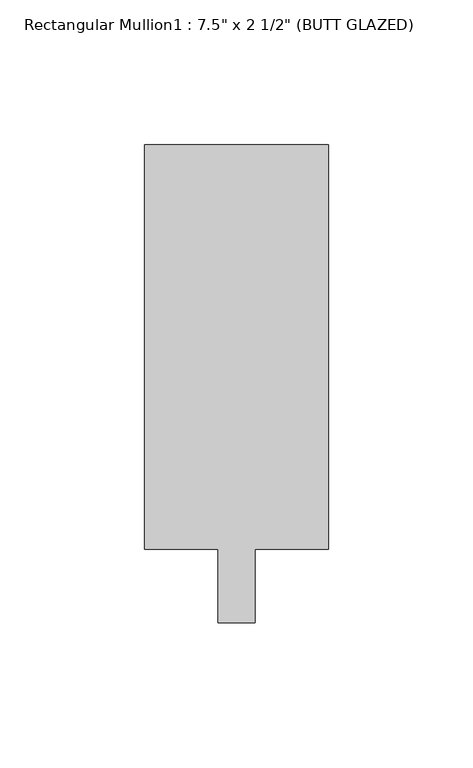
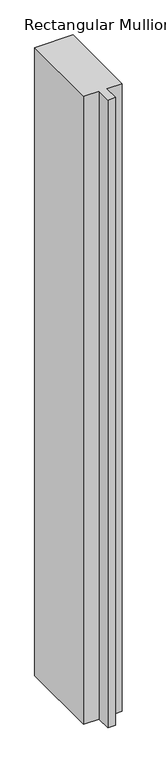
"""IFC4 building model written with IfcOpenShell, lengths in millimetres: member geometry."""

import ifcopenshell
import ifcopenshell.guid

model = None  # the IFC model being written
_history = None  # IfcOwnerHistory: only IFC2X3 demands one
_inside = {}  # id of a spatial element -> (the spatial element, [elements in it])
_under = {}  # id of a project, library or spatial element -> (it, [spatial elements below it])
_declared = {}  # id of a project -> (the project, [libraries it declares])
_typed = {}  # id of a type object -> (the type object, [elements of that type])
_made_of = {}  # id of a material, layer set ... -> (it, [elements and type objects made of it])


def new_model(schema):
    """Start an empty IFC model of exactly this schema.

    Asked for "IFC4X3", IfcOpenShell would pick the latest addendum, in which some entities
    have other attributes; the version numbers below select the first issue.
    IFC2X3 requires an IfcOwnerHistory on every rooted entity: one is made here for all.
    """
    global model, _history
    if schema == "IFC4X3":
        model = ifcopenshell.file(schema_version=(4, 3, 0, 0))
    else:
        model = ifcopenshell.file(schema=schema)
    _inside.clear()
    _under.clear()
    _declared.clear()
    _typed.clear()
    _made_of.clear()
    _history = None
    if model.schema == "IFC2X3":
        org = make("IfcOrganization", Name="unknown")
        user = make(
            "IfcPersonAndOrganization",
            ThePerson=make("IfcPerson", FamilyName="unknown"),
            TheOrganization=org,
        )
        app = make(
            "IfcApplication",
            ApplicationDeveloper=org,
            Version="unknown",
            ApplicationFullName="unknown",
            ApplicationIdentifier="unknown",
        )
        _history = make(
            "IfcOwnerHistory",
            OwningUser=user,
            OwningApplication=app,
            ChangeAction="ADDED",
            CreationDate=0,
        )
    return model


def make(cls, **values):
    """One entity of the class cls with the attributes given. An attribute that is None is left unset."""
    return model.create_entity(
        cls, **{name: value for name, value in values.items() if value is not None}
    )


def rooted(cls, **values):
    """An entity with a GlobalId (a new one), such as an element, a storey or a relation."""
    return make(cls, GlobalId=ifcopenshell.guid.new(), OwnerHistory=_history, **values)


def si_unit(unit_type, name, prefix=None):
    """IfcSIUnit, for example si_unit("LENGTHUNIT", "METRE", prefix="MILLI")."""
    return make("IfcSIUnit", UnitType=unit_type, Prefix=prefix, Name=name)


def assignment(units):
    """IfcUnitAssignment: the units of a project."""
    return None if units is None else make("IfcUnitAssignment", Units=units)


def point(xyz):
    """IfcCartesianPoint."""
    return None if xyz is None else make("IfcCartesianPoint", Coordinates=xyz)


def direction(xyz):
    """IfcDirection."""
    return None if xyz is None else make("IfcDirection", DirectionRatios=xyz)


def frame(location, z_axis=None, x_axis=None):
    """IfcAxis2Placement3D, a coordinate frame: its origin and axes. An axis left out is left unset."""
    return make(
        "IfcAxis2Placement3D",
        Location=point(location),
        Axis=direction(z_axis),
        RefDirection=direction(x_axis),
    )


def origin():
    """The frame at (0, 0, 0) with its axes left unset."""
    return frame((0.0, 0.0, 0.0))


def place(relative_to, where):
    """IfcLocalPlacement: puts the frame where relative to a parent placement (None: the world)."""
    return make(
        "IfcLocalPlacement", PlacementRelTo=relative_to, RelativePlacement=where
    )


def context(
    kind, dimensions, precision=None, world=None, true_north=None, identifier=None
):
    """IfcGeometricRepresentationContext, for example the 3D "Model" context."""
    return make(
        "IfcGeometricRepresentationContext",
        ContextIdentifier=identifier,
        ContextType=kind,
        CoordinateSpaceDimension=dimensions,
        Precision=precision,
        WorldCoordinateSystem=world,
        TrueNorth=true_north,
    )


def project(units=None, contexts=None):
    """IfcProject with its units and contexts."""
    return rooted(
        "IfcProject",
        Name="project",
        RepresentationContexts=contexts,
        UnitsInContext=assignment(units),
    )


def spatial(cls, under=None, at=None, **own):
    """A site, building, storey or space (cls), placed at a placement, below another one or the project."""
    s = rooted(cls, ObjectPlacement=at, **own)
    if under is not None:
        _under.setdefault(under.id(), (under, []))[1].append(s)
    return s


def polyline(points):
    """IfcPolyline through the points."""
    return make("IfcPolyline", Points=[point(p) for p in points])


def outline(outer, holes=None, kind="AREA"):
    """IfcArbitraryClosedProfileDef: a profile drawn as a closed curve; with holes, ...WithVoids."""
    if holes is None:
        return make("IfcArbitraryClosedProfileDef", ProfileType=kind, OuterCurve=outer)
    return make(
        "IfcArbitraryProfileDefWithVoids",
        ProfileType=kind,
        OuterCurve=outer,
        InnerCurves=holes,
    )


def extrude(swept, where, along, depth):
    """IfcExtrudedAreaSolid: the profile swept, set in the frame where, extruded along a direction by depth."""
    return make(
        "IfcExtrudedAreaSolid",
        SweptArea=swept,
        Position=where,
        ExtrudedDirection=direction(along),
        Depth=depth,
    )


def shape(context_of_items, identifier, shape_type, items):
    """IfcShapeRepresentation: the items that make up one representation, for example the "Body"."""
    return make(
        "IfcShapeRepresentation",
        ContextOfItems=context_of_items,
        RepresentationIdentifier=identifier,
        RepresentationType=shape_type,
        Items=items,
    )


def source(mapping_origin, context_of_items, identifier, shape_type, items):
    """IfcRepresentationMap: a shape defined once, which mapped items show again and again."""
    return make(
        "IfcRepresentationMap",
        MappingOrigin=mapping_origin,
        MappedRepresentation=shape(context_of_items, identifier, shape_type, items),
    )


def transform(
    local_origin,
    x_axis=None,
    y_axis=None,
    z_axis=None,
    scale=None,
    scale2=None,
    scale3=None,
    uniform=True,
):
    """IfcCartesianTransformationOperator3D, or its non-uniform kind. x_axis, y_axis, z_axis: its Axis1, 2, 3."""
    if uniform:
        return make(
            "IfcCartesianTransformationOperator3D",
            Axis1=direction(x_axis),
            Axis2=direction(y_axis),
            LocalOrigin=point(local_origin),
            Scale=scale,
            Axis3=direction(z_axis),
        )
    return make(
        "IfcCartesianTransformationOperator3DnonUniform",
        Axis1=direction(x_axis),
        Axis2=direction(y_axis),
        LocalOrigin=point(local_origin),
        Scale=scale,
        Axis3=direction(z_axis),
        Scale2=scale2,
        Scale3=scale3,
    )


def mapped(mapping_source, mapping_target):
    """IfcMappedItem: shows the shape of a source again, moved by a transform."""
    return make(
        "IfcMappedItem", MappingSource=mapping_source, MappingTarget=mapping_target
    )


def made_of(thing, what):
    """Note that an element or type object is made of a material, layer set ...; save() writes the relation."""
    if what is not None:
        _made_of.setdefault(what.id(), (what, []))[1].append(thing)
    return thing


def element(
    cls,
    number,
    at=None,
    inside=None,
    cuts=None,
    type_object=None,
    material=None,
    context=None,
    identifier="Body",
    shape_type=None,
    held_by="IfcProductDefinitionShape",
    body=None,
    shapes=None,
    **own,
):
    """One element of the class cls, such as IfcWall. Its Tag is "e" and its number.

    at: its placement. inside: the storey or other place that contains it. cuts: it is an
    opening in that element (IfcRelVoidsElement). A single representation is given by context,
    identifier, shape_type and body (its items); several are given by shapes. held_by: the class
    of the entity that holds the representations. save() writes the other relations.
    """
    e = rooted(cls, Tag="e%d" % number, ObjectPlacement=at, **own)
    if body is not None:
        shapes = [shape(context, identifier, shape_type, body)]
    if shapes is not None:
        e.Representation = make(held_by, Representations=shapes)
    if inside is not None:
        _inside.setdefault(inside.id(), (inside, []))[1].append(e)
    if cuts is not None:
        rooted(
            "IfcRelVoidsElement", RelatingBuildingElement=cuts, RelatedOpeningElement=e
        )
    if type_object is not None:
        _typed.setdefault(type_object.id(), (type_object, []))[1].append(e)
    return made_of(e, material)


def aggregate(whole, parts):
    """IfcRelAggregates: a whole, such as a stair, and the parts it consists of."""
    return rooted("IfcRelAggregates", RelatingObject=whole, RelatedObjects=parts)


def save(model, path):
    """Write the relations noted so far, then the file.

    IfcRelAggregates (storeys below a building ...), IfcRelContainedInSpatialStructure (elements
    in a storey), IfcRelDefinesByType, IfcRelAssociatesMaterial and IfcRelDeclares: one each for
    every whole, place, type object, material and project.
    """
    for whole, parts in _under.values():
        aggregate(whole, parts)
    for where, things in _inside.values():
        rooted(
            "IfcRelContainedInSpatialStructure",
            RelatedElements=things,
            RelatingStructure=where,
        )
    for kind, things in _typed.values():
        rooted("IfcRelDefinesByType", RelatedObjects=things, RelatingType=kind)
    for what, things in _made_of.values():
        rooted("IfcRelAssociatesMaterial", RelatedObjects=things, RelatingMaterial=what)
    for by, libraries in _declared.values():
        rooted("IfcRelDeclares", RelatingContext=by, RelatedDefinitions=libraries)
    model.write(path)


def member_4156692b(model_context):
    return source(origin(), model_context, "Body", "SweptSolid", [
        extrude(outline(polyline([(31.75, 165.1), (31.75, 25.4), (6.35, 25.4), (6.35, 0.0), (-6.35, 0.0), (-6.35, 25.4), (-31.75, 25.4), (-31.75, 165.1), (31.75, 165.1)])), frame((0.0, 0.0, -1095.3750029), z_axis=(0.0, 0.0, 1.0), x_axis=(1.0, 0.0, 0.0)), (0.0, 0.0, 1.0), 1095.3750029),
    ])


if __name__ == "__main__":
    model = new_model("IFC4")
    model_context = context("Model", 3, world=origin())
    ifc_project = project(units=[si_unit("LENGTHUNIT", "METRE", prefix="MILLI")], contexts=[model_context])
    site = spatial("IfcSite", under=ifc_project)
    building = spatial("IfcBuilding", under=site)
    placement = place(None, origin())
    member_shape = member_4156692b(model_context)
    element("IfcMember", 1, ObjectType="Rectangular Mullion1 : 7.5\" x 2 1/2\" (BUTT GLAZED)", at=placement, inside=building, context=model_context, shape_type="MappedRepresentation", body=[
        mapped(member_shape, transform((0.0, 0.0, 0.0), x_axis=(1.0, 0.0, 0.0), y_axis=(0.0, 1.0, 0.0), z_axis=(0.0, 0.0, 1.0))),
    ])
    save(model, "model.ifc")
